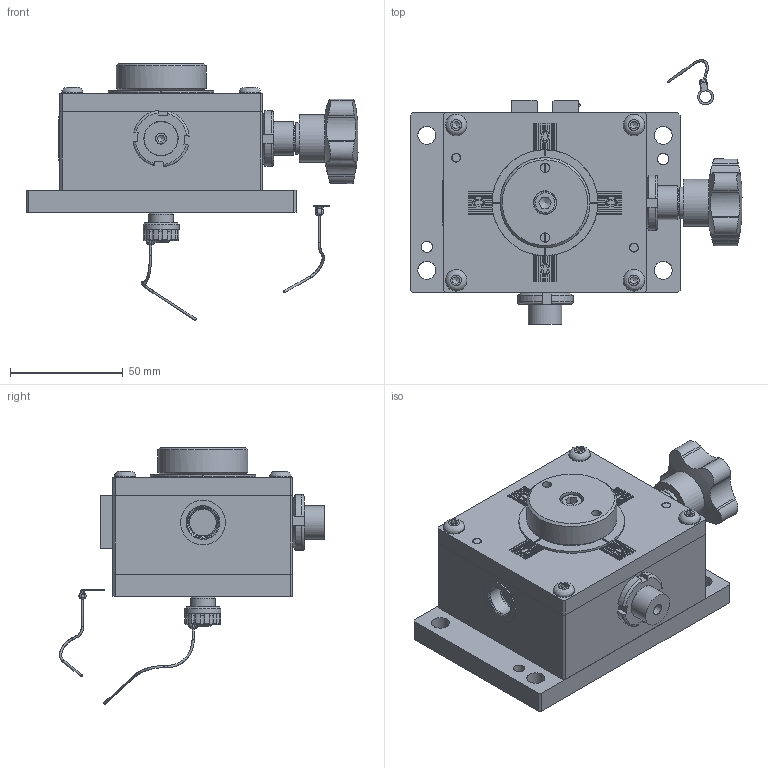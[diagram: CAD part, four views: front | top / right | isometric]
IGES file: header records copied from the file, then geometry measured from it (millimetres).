
Global section: file name: 146.00-DX-L-Y; native system: Autodesk Inventor 2019; preprocessor: unknown; author: AP; date: 20200220.145936; units: millimetre
Bounding box: 147.51 x 117.72 x 114.1 mm (x, y, z)
Volume: 392657.3 mm3; surface area: 134942.7 mm2
Topology: 44 solids, 44 shells, 1074 faces, 2787 edges, 1899 vertices
Faces by surface type: bspline 1074
